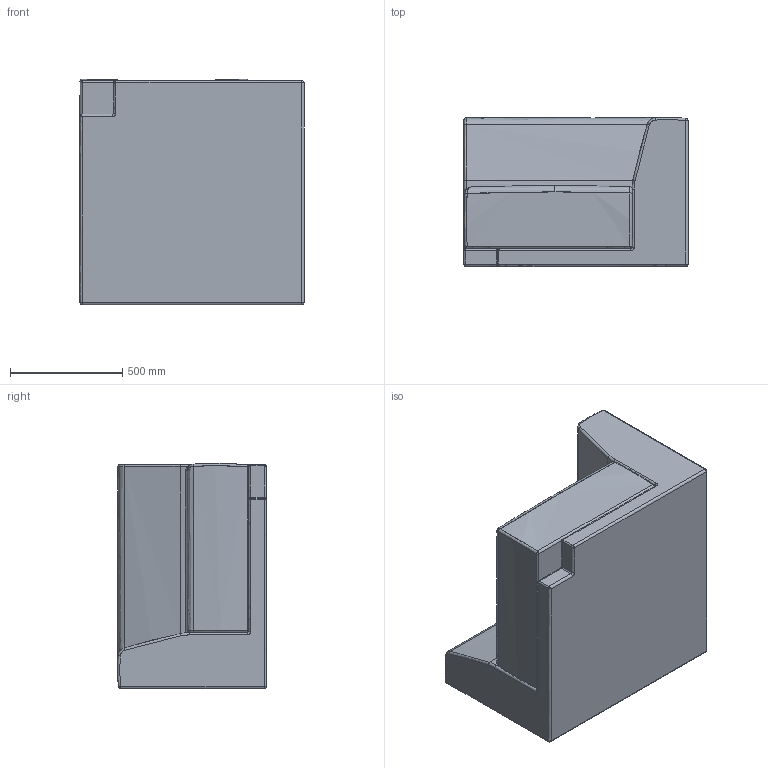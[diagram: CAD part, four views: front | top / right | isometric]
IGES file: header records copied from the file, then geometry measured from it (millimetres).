
Start section: SolidWorks IGES file using NURBS representation for surfaces
Global section: file name: D:\VICCARBE\PRODUCTOS\19-MASS\04-MODELADOS (PLANOS)\SOLIDWORKS\PIEZAS\Backs\01-IGES\VICCARBE_Mass_corner.IGS; native system: SolidWorks 2009; preprocessor: SolidWorks 2009; author: RUBEN; date: 110908.164640; units: millimetre
Bounding box: 1000.04 x 665 x 1005.96 mm (x, y, z)
Surface area: 6343913.7 mm2 (no closed solid volume)
Topology: 0 solids, 0 shells, 94 faces, 762 edges, 745 vertices
Faces by surface type: bspline 94
